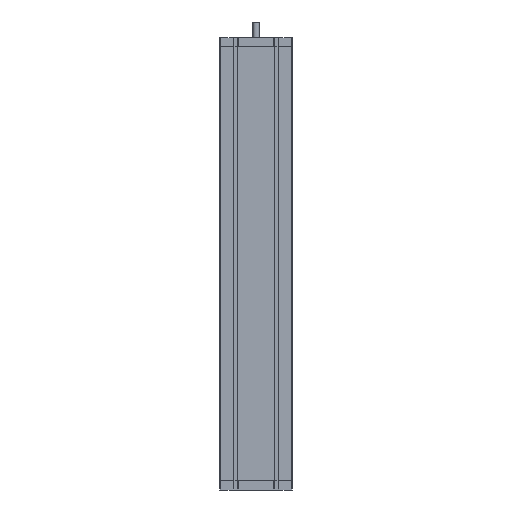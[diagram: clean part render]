
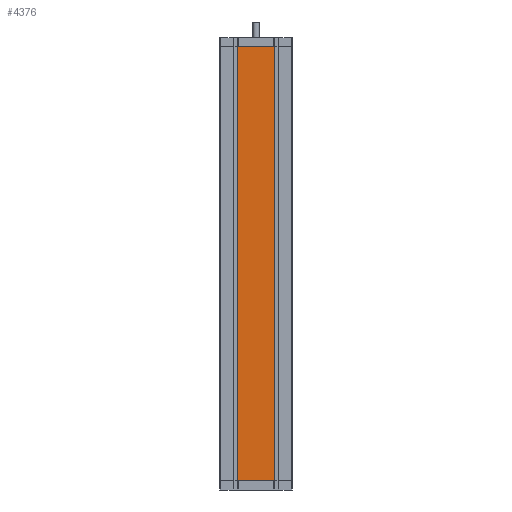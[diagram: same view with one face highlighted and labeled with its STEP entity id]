
A CAD part, front view. The second image highlights one B-rep face of the part: STEP entity #4376.
In plain terms, the highlighted planar face has unit normal (0, -1, 0).
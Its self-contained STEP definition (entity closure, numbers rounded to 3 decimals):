
#1023 = ORIENTED_EDGE ( 'NONE', *, *, #3830, .F. ) ;
#3066 = CARTESIAN_POINT ( 'NONE',  ( -39.95, 0., -480. ) ) ;
#3183 = DIRECTION ( 'NONE',  ( 0., 0., 1. ) ) ;
#3760 = AXIS2_PLACEMENT_3D ( 'NONE', #5541, #12276, #22522 ) ;
#3830 = EDGE_CURVE ( 'NONE', #21946, #5446, #17781, .T. ) ;
#3874 = VECTOR ( 'NONE', #20475, 1000. ) ;
#4376 = ADVANCED_FACE ( 'NONE', ( #8879 ), #5327, .T. ) ;
#5327 = PLANE ( 'NONE',  #3760 ) ;
#5377 = ORIENTED_EDGE ( 'NONE', *, *, #20081, .T. ) ;
#5446 = VERTEX_POINT ( 'NONE', #13321 ) ;
#5541 = CARTESIAN_POINT ( 'NONE',  ( 0., 0., -480. ) ) ;
#6981 = CARTESIAN_POINT ( 'NONE',  ( 39.95, 0., -480. ) ) ;
#7089 = LINE ( 'NONE', #6981, #11944 ) ;
#8137 = EDGE_CURVE ( 'NONE', #9783, #21946, #18781, .T. ) ;
#8204 = EDGE_CURVE ( 'NONE', #8851, #5446, #7089, .T. ) ;
#8851 = VERTEX_POINT ( 'NONE', #15405 ) ;
#8879 = FACE_OUTER_BOUND ( 'NONE', #21507, .T. ) ;
#9783 = VERTEX_POINT ( 'NONE', #21273 ) ;
#11944 = VECTOR ( 'NONE', #17289, 1000. ) ;
#12184 = CARTESIAN_POINT ( 'NONE',  ( -39.95, 0., 480. ) ) ;
#12276 = DIRECTION ( 'NONE',  ( 0., -1., 0. ) ) ;
#12574 = DIRECTION ( 'NONE',  ( 1., 0., 0. ) ) ;
#13042 = VECTOR ( 'NONE', #3183, 1000. ) ;
#13321 = CARTESIAN_POINT ( 'NONE',  ( 39.95, 0., 480. ) ) ;
#13490 = ORIENTED_EDGE ( 'NONE', *, *, #8204, .T. ) ;
#13547 = CARTESIAN_POINT ( 'NONE',  ( 0., 0., -480. ) ) ;
#14619 = CARTESIAN_POINT ( 'NONE',  ( 0., 0., 480. ) ) ;
#15405 = CARTESIAN_POINT ( 'NONE',  ( 39.95, 0., -480. ) ) ;
#17289 = DIRECTION ( 'NONE',  ( 0., 0., 1. ) ) ;
#17537 = VECTOR ( 'NONE', #12574, 1000. ) ;
#17781 = LINE ( 'NONE', #14619, #17537 ) ;
#18781 = LINE ( 'NONE', #3066, #13042 ) ;
#18909 = ORIENTED_EDGE ( 'NONE', *, *, #8137, .F. ) ;
#20081 = EDGE_CURVE ( 'NONE', #9783, #8851, #20595, .T. ) ;
#20475 = DIRECTION ( 'NONE',  ( 1., 0., 0. ) ) ;
#20595 = LINE ( 'NONE', #13547, #3874 ) ;
#21273 = CARTESIAN_POINT ( 'NONE',  ( -39.95, 0., -480. ) ) ;
#21507 = EDGE_LOOP ( 'NONE', ( #1023, #18909, #5377, #13490 ) ) ;
#21946 = VERTEX_POINT ( 'NONE', #12184 ) ;
#22522 = DIRECTION ( 'NONE',  ( 0., 0., -1. ) ) ;
